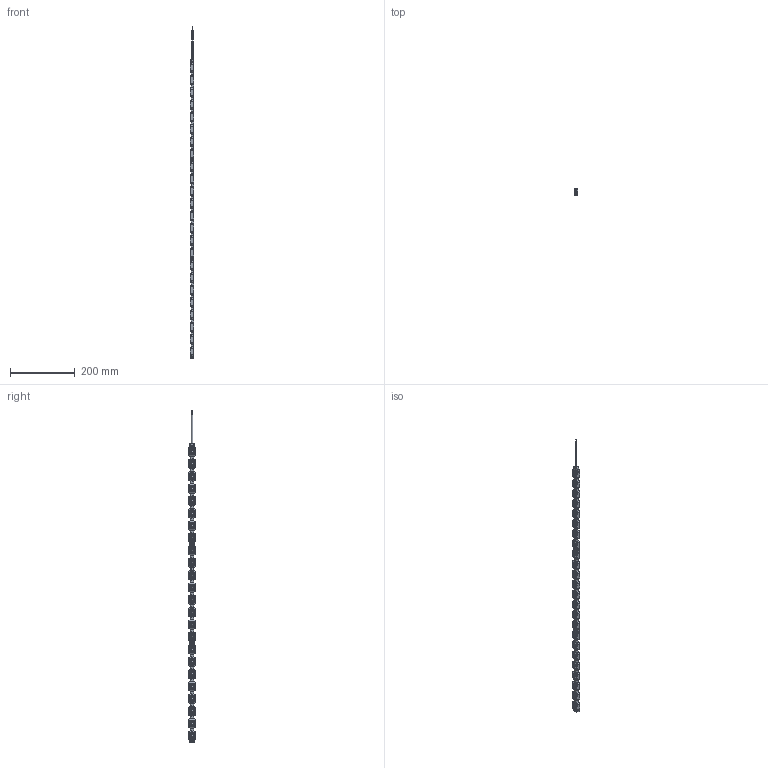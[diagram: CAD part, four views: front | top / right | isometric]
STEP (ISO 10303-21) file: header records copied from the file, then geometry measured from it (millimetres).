
FILE_DESCRIPTION (( 'STEP AP203' ), '1' );
FILE_NAME ('LFB1000-G1.STEP', '2022-10-14T08:19:12', ( '' ), ( '' ), 'SwSTEP 2.0', 'SolidWorks 2020', '' );
FILE_SCHEMA (( 'CONFIG_CONTROL_DESIGN' ));
Products named in the file (1): LFB1000-G1
Bounding box: 12 x 20.9 x 1023.21 mm (x, y, z)
Volume: 170126.7 mm3; surface area: 90847.1 mm2
Topology: 52 solids, 53 shells, 6075 faces, 14272 edges, 8392 vertices
Faces by surface type: bspline 3547, plane 1380, cylinder 856, cone 288, torus 2, sphere 2
Entity records: 257731 total; most frequent: CARTESIAN_POINT 146763, ORIENTED_EDGE 28516, DIRECTION 16361, EDGE_CURVE 14258, VERTEX_POINT 8392, AXIS2_PLACEMENT_3D 6711, EDGE_LOOP 6178, ADVANCED_FACE 6075
